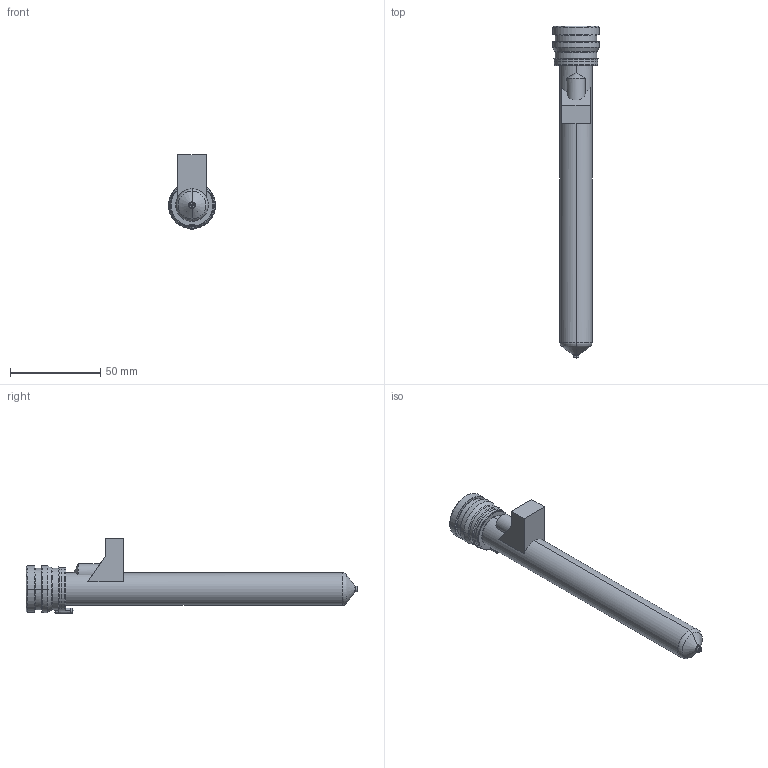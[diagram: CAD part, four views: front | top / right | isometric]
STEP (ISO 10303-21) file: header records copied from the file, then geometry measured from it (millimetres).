
FILE_DESCRIPTION((''),'2;1');
FILE_NAME('MPN-08-24-VP3-166-M','2026-02-05T13:33:20',('UPTIO'),('Thermoplay S.p.A.'),'CREO PARAMETRIC BY PTC INC, 2023494','CREO PARAMETRIC BY PTC INC, 2023494','');
FILE_SCHEMA(('CONFIG_CONTROL_DESIGN','SHAPE_APPEARANCE_LAYERS_GROUPS'));
Length unit declared in the file: millimetre
Products named in the file (1): MPN-08-24-VP3-166-M
Bounding box: 26 x 184.1 x 41.5 mm (x, y, z)
Volume: 34725.6 mm3; surface area: 46519.6 mm2
Topology: 2 solids, 3 shells, 571 faces, 1494 edges, 922 vertices
Faces by surface type: cylinder 178, plane 143, bspline 103, torus 68, cone 66, sphere 7, extrusion 6
Entity records: 30028 total; most frequent: CARTESIAN_POINT 13518, ORIENTED_EDGE 2970, DIRECTION 2631, EDGE_CURVE 1485, AXIS2_PLACEMENT_3D 1029, VERTEX_POINT 922, EDGE_LOOP 601, VECTOR 573
